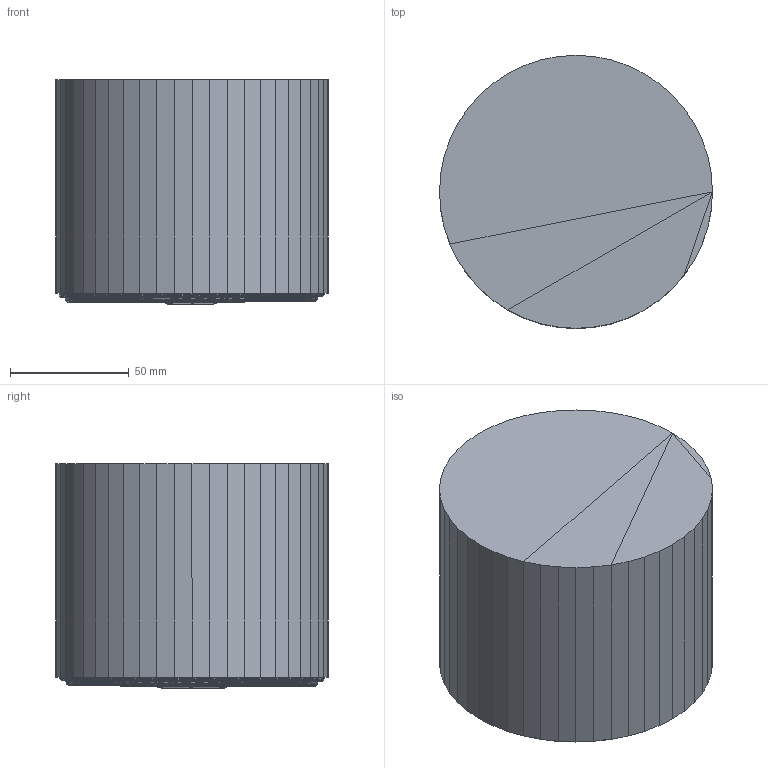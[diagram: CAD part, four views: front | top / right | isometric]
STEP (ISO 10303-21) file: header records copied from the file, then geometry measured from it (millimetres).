
FILE_DESCRIPTION ((), '1');
FILE_NAME ('C:\Users\MiCHAL\Desktop\ALDEX - Modele 3D 28.09.2022\1047PL_G\1047PL_G\1047PL_G.stp', '2022-11-08T00:00:56', ('Unknown'), ('Unknown'), 'HarmonyWare STEP v2.1.4', 'HarmonyWare Translators', '');
FILE_SCHEMA (('CONFIG_CONTROL_DESIGN'));
Length unit declared in the file: centimetre
Assembly tree (6 placements, depth 2):
  (unnamed)
    (unnamed)
    (unnamed)
    (unnamed)
    (unnamed)
    (unnamed)
    (unnamed)
Bounding box: 115 x 115 x 94.76 mm (x, y, z)
Volume: 67625.8 mm3; surface area: 150255.1 mm2
Topology: 5 solids, 6 shells, 9990 faces, 15303 edges, 5323 vertices
Faces by surface type: bspline 9990
Entity records: 183216 total; most frequent: CARTESIAN_POINT 75901, ORIENTED_EDGE 30486, B_SPLINE_CURVE_WITH_KNOTS 15303, EDGE_CURVE 15303, EDGE_LOOP 9990, FACE_OUTER_BOUND 9990, B_SPLINE_SURFACE_WITH_KNOTS 9990, ADVANCED_FACE 9990
